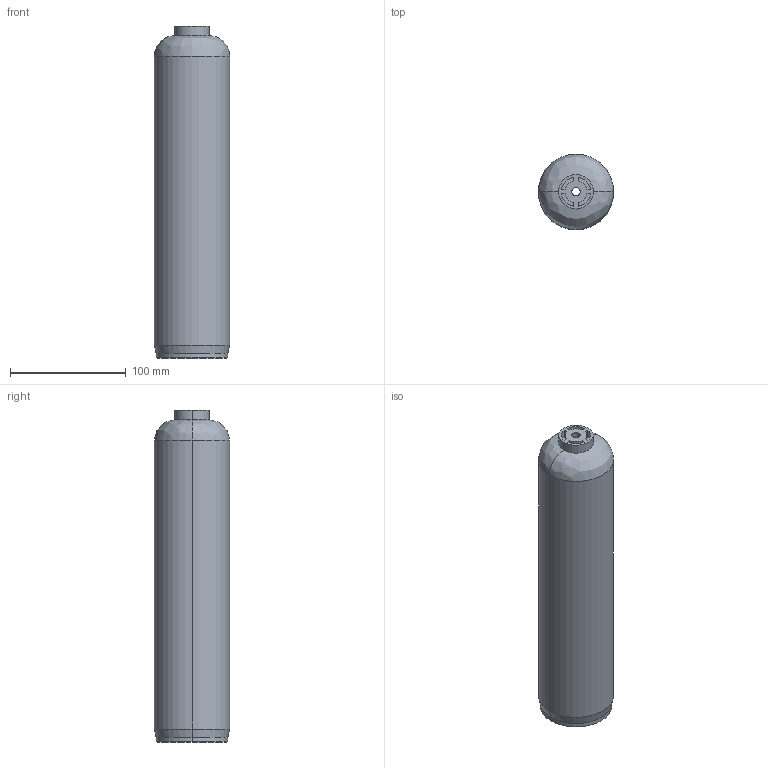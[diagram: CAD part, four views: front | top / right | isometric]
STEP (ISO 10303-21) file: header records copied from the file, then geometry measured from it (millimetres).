
FILE_DESCRIPTION (( 'STEP AP214' ), '1' );
FILE_NAME ('avt-pp-35_01.step', '2025-12-23T15:53:27', ( '' ), ( '' ), 'SwSTEP 2.0', 'SolidWorks 2026', '' );
FILE_SCHEMA (( 'AUTOMOTIVE_DESIGN' ));
Length unit declared in the file: inch
Products named in the file (1): avt-pp-35_01
Bounding box: 65.02 x 65.02 x 286.82 mm (x, y, z)
Volume: 234541.9 mm3; surface area: 111153.1 mm2
Topology: 1 solids, 1 shells, 53 faces, 114 edges, 72 vertices
Faces by surface type: cylinder 26, plane 19, bspline 4, cone 4
Entity records: 1525 total; most frequent: CARTESIAN_POINT 306, DIRECTION 270, ORIENTED_EDGE 228, EDGE_CURVE 114, AXIS2_PLACEMENT_3D 108, VERTEX_POINT 72, EDGE_LOOP 64, CIRCLE 58
